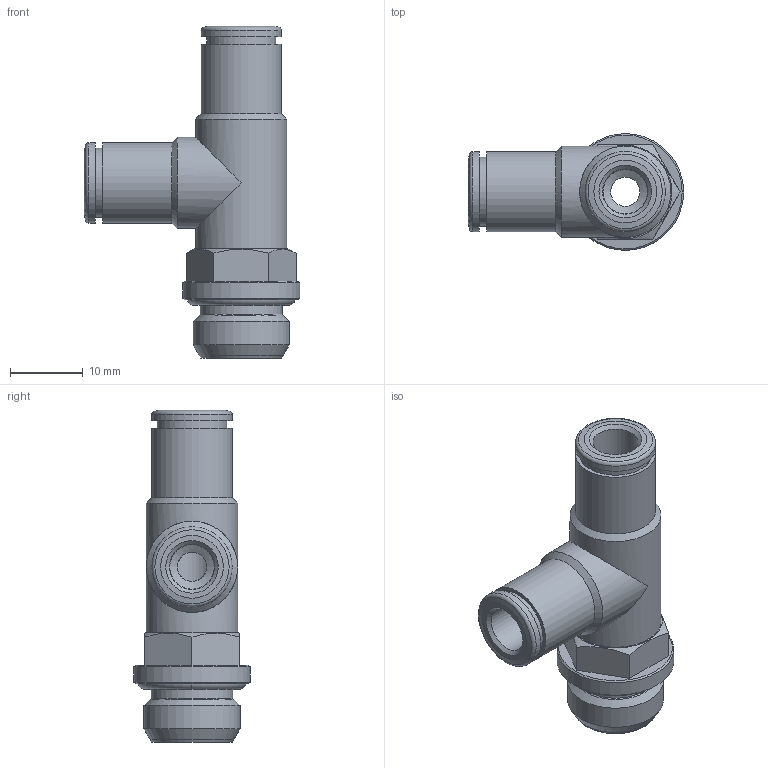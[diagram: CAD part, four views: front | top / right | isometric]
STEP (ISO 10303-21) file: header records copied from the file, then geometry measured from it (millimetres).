
FILE_DESCRIPTION(('Bauteilbeschreibung','HiCAD-Model','HiCAD-STEP-TRANSLATION','Bauteilbeschreibung'),'2;1');
FILE_NAME('B:/ABGLEICH/ZEICHNUNGEN/STEP FÜR INTERNET/STEP/IPSO 021/202104_IPSO_021_6_1-4.STP','2011-09-28T09:19:49+00:00',('Konstrukteur'),('Konstrukteur Firma GmbH'),' HiCAD neXt 2008, Step 3.1.1401.2J ','HiCAD neXt 2008','confidential');
FILE_SCHEMA(('AUTOMOTIVE_DESIGN { 1 2 10303 214 0 1 1 1 }'));
Length unit declared in the file: millimetre
Products named in the file (8): A02104_IPSO_021_6_1_4; R202103_N; DR6_1_NEU; DR6010NEU; OR 11_11X1_78; A14603_N2_GEW__1_8_1_4; A146030N20GEW001080104; G 1_4
Assembly tree (7 placements, depth 3):
  A02104_IPSO_021_6_1_4
    R202103_N
    DR6_1_NEU
    DR6010NEU
    OR 11_11X1_78
    A14603_N2_GEW__1_8_1_4
    A146030N20GEW001080104
      G 1_4
Bounding box: 29.5 x 16 x 45.5 mm (x, y, z)
Volume: 4654.8 mm3; surface area: 6160.9 mm2
Topology: 6 solids, 6 shells, 97 faces, 204 edges, 125 vertices
Faces by surface type: cylinder 32, cone 32, plane 25, torus 8
Full cylindrical faces by diameter (mm): 4 x2, 5.5 x1, 6 x1, 6.1 x2, 6.2 x2, 8.3 x2, 8.5 x1, 9 x4, 9.5 x2, 9.6 x2, 10.1 x2, 11 x4, 11.2 x1, 11.445 x2, 12.5 x2, 13.157 x1, 16 x1
Entity records: 3489 total; most frequent: CARTESIAN_POINT 1014, DIRECTION 424, ORIENTED_EDGE 228, AXIS2_PLACEMENT_3D 206, EDGE_LOOP 186, EDGE_CURVE 114, COLOUR_RGB 111, PRESENTATION_STYLE_ASSIGNMENT 111
